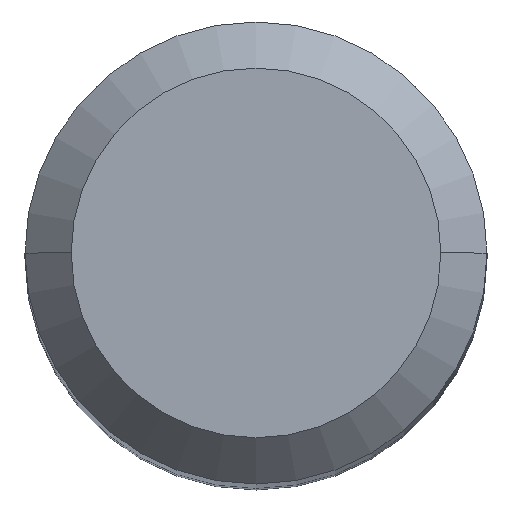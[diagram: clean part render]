
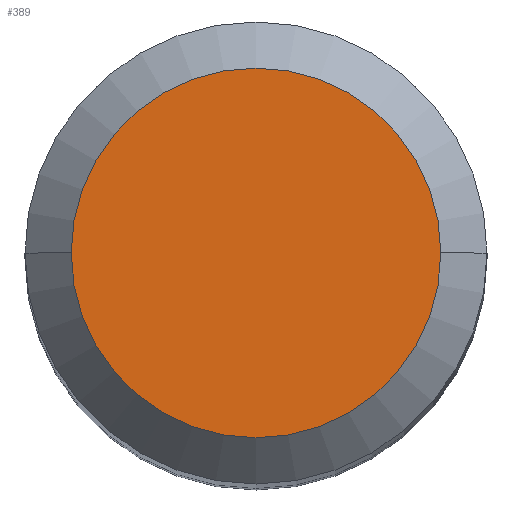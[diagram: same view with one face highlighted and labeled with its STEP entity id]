
A CAD part, top view. The second image highlights one B-rep face of the part: STEP entity #389.
In plain terms, the highlighted planar face has unit normal (0, 0, 1).
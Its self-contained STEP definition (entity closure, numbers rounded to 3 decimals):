
#3 = EDGE_CURVE ( 'NONE', #317, #126, #44, .T. ) ;
#17 = EDGE_LOOP ( 'NONE', ( #68, #90 ) ) ;
#44 = CIRCLE ( 'NONE', #356, 3.2 ) ;
#49 = CARTESIAN_POINT ( 'NONE',  ( 0., 0., 0. ) ) ;
#68 = ORIENTED_EDGE ( 'NONE', *, *, #3, .F. ) ;
#90 = ORIENTED_EDGE ( 'NONE', *, *, #104, .F. ) ;
#104 = EDGE_CURVE ( 'NONE', #126, #317, #469, .T. ) ;
#116 = AXIS2_PLACEMENT_3D ( 'NONE', #456, #252, #413 ) ;
#117 = FACE_OUTER_BOUND ( 'NONE', #17, .T. ) ;
#126 = VERTEX_POINT ( 'NONE', #426 ) ;
#189 = DIRECTION ( 'NONE',  ( 1., 0., 0. ) ) ;
#248 = AXIS2_PLACEMENT_3D ( 'NONE', #441, #434, #189 ) ;
#252 = DIRECTION ( 'NONE',  ( 0., 0., -1. ) ) ;
#267 = DIRECTION ( 'NONE',  ( 0., 0., -1. ) ) ;
#317 = VERTEX_POINT ( 'NONE', #404 ) ;
#349 = PLANE ( 'NONE',  #248 ) ;
#356 = AXIS2_PLACEMENT_3D ( 'NONE', #49, #267, #437 ) ;
#389 = ADVANCED_FACE ( 'NONE', ( #117 ), #349, .T. ) ;
#404 = CARTESIAN_POINT ( 'NONE',  ( -3.2, 0., 0. ) ) ;
#413 = DIRECTION ( 'NONE',  ( -1., 0., 0. ) ) ;
#426 = CARTESIAN_POINT ( 'NONE',  ( 3.2, 0., 0. ) ) ;
#434 = DIRECTION ( 'NONE',  ( 0., 0., 1. ) ) ;
#437 = DIRECTION ( 'NONE',  ( -1., 0., 0. ) ) ;
#441 = CARTESIAN_POINT ( 'NONE',  ( 0., 3.2, 0. ) ) ;
#456 = CARTESIAN_POINT ( 'NONE',  ( 0., 0., 0. ) ) ;
#469 = CIRCLE ( 'NONE', #116, 3.2 ) ;
